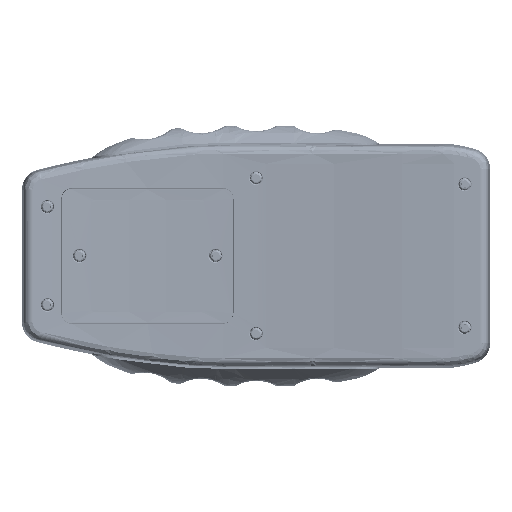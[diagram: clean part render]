
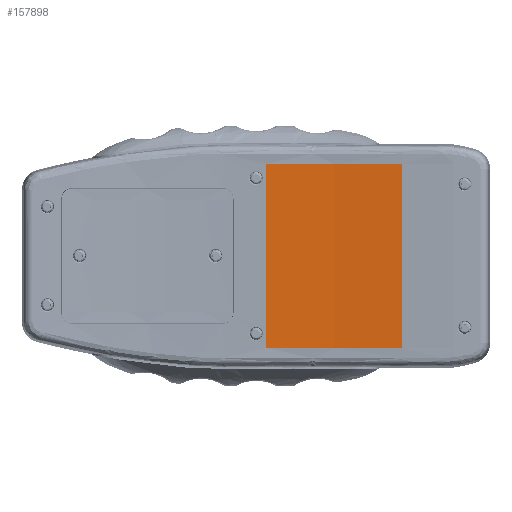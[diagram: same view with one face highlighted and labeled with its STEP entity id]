
A CAD part, top view. The second image highlights one B-rep face of the part: STEP entity #157898.
In plain terms, the highlighted cylindrical face has radius 800.5 mm (diameter 1601 mm), a partial arc.
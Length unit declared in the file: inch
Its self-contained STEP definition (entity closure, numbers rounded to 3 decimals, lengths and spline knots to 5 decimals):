
#18472 = CARTESIAN_POINT ( 'NONE',  ( 6.19876, 3.93701, 1.456 ) ) ;
#19423 = B_SPLINE_CURVE_WITH_KNOTS ( 'NONE', 3,
 ( #83135, #214597, #320651, #162760 ),
 .UNSPECIFIED., .F., .F.,
 ( 4, 4 ),
 ( 0., 1. ),
 .UNSPECIFIED. ) ;
#19961 = EDGE_LOOP ( 'NONE', ( #82024, #253537, #297916, #131327 ) ) ;
#21556 = CARTESIAN_POINT ( 'NONE',  ( 3.58268, 2.16535, 1.28152 ) ) ;
#22620 = DIRECTION ( 'NONE',  ( 0., 0., 1. ) ) ;
#42862 = CARTESIAN_POINT ( 'NONE',  ( 3.58268, 3.93701, 1.28152 ) ) ;
#45940 = CARTESIAN_POINT ( 'NONE',  ( 6.19876, 0.3937, 1.456 ) ) ;
#48034 = DIRECTION ( 'NONE',  ( 0., -1., 0. ) ) ;
#50285 = LINE ( 'NONE', #142653, #182322 ) ;
#65779 = FACE_OUTER_BOUND ( 'NONE', #19961, .T. ) ;
#82024 = ORIENTED_EDGE ( 'NONE', *, *, #143569, .T. ) ;
#83135 = CARTESIAN_POINT ( 'NONE',  ( 6.19876, 3.93701, 1.456 ) ) ;
#86493 = CARTESIAN_POINT ( 'NONE',  ( 5.32965, 0.3937, 1.36159 ) ) ;
#100266 = VERTEX_POINT ( 'NONE', #18472 ) ;
#106082 = AXIS2_PLACEMENT_3D ( 'NONE', #207080, #154039, #22620 ) ;
#119430 = CYLINDRICAL_SURFACE ( 'NONE', #106082, 31.51575 ) ;
#131327 = ORIENTED_EDGE ( 'NONE', *, *, #258267, .T. ) ;
#142653 = CARTESIAN_POINT ( 'NONE',  ( 6.19876, 2.16535, 1.456 ) ) ;
#143569 = EDGE_CURVE ( 'NONE', #100266, #322257, #19423, .T. ) ;
#149902 = CARTESIAN_POINT ( 'NONE',  ( 6.19876, 0.3937, 1.456 ) ) ;
#154039 = DIRECTION ( 'NONE',  ( 0., 1., 0. ) ) ;
#157898 = ADVANCED_FACE ( 'NONE', ( #65779 ), #119430, .F. ) ;
#162760 = CARTESIAN_POINT ( 'NONE',  ( 3.58268, 3.93701, 1.28152 ) ) ;
#169143 = DIRECTION ( 'NONE',  ( 0., 1., 0. ) ) ;
#172884 = EDGE_CURVE ( 'NONE', #322257, #331389, #261173, .T. ) ;
#182322 = VECTOR ( 'NONE', #169143, 39.37008 ) ;
#207080 = CARTESIAN_POINT ( 'NONE',  ( 2.79528, 0.3937, 32.78743 ) ) ;
#207630 = VECTOR ( 'NONE', #48034, 39.37008 ) ;
#214597 = CARTESIAN_POINT ( 'NONE',  ( 5.32965, 3.93701, 1.36159 ) ) ;
#225064 = EDGE_CURVE ( 'NONE', #331389, #333426, #232846, .T. ) ;
#232846 = B_SPLINE_CURVE_WITH_KNOTS ( 'NONE', 3,
 ( #307815, #281207, #86493, #149902 ),
 .UNSPECIFIED., .F., .F.,
 ( 4, 4 ),
 ( 0., 1. ),
 .UNSPECIFIED. ) ;
#253537 = ORIENTED_EDGE ( 'NONE', *, *, #172884, .T. ) ;
#258267 = EDGE_CURVE ( 'NONE', #333426, #100266, #50285, .T. ) ;
#261173 = LINE ( 'NONE', #21556, #207630 ) ;
#281207 = CARTESIAN_POINT ( 'NONE',  ( 4.45662, 0.3937, 1.30336 ) ) ;
#281609 = CARTESIAN_POINT ( 'NONE',  ( 3.58268, 0.3937, 1.28152 ) ) ;
#297916 = ORIENTED_EDGE ( 'NONE', *, *, #225064, .T. ) ;
#307815 = CARTESIAN_POINT ( 'NONE',  ( 3.58268, 0.3937, 1.28152 ) ) ;
#320651 = CARTESIAN_POINT ( 'NONE',  ( 4.45662, 3.93701, 1.30336 ) ) ;
#322257 = VERTEX_POINT ( 'NONE', #42862 ) ;
#331389 = VERTEX_POINT ( 'NONE', #281609 ) ;
#333426 = VERTEX_POINT ( 'NONE', #45940 ) ;
